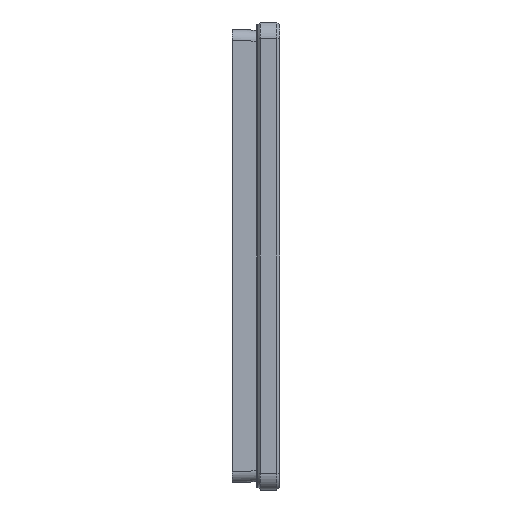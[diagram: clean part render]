
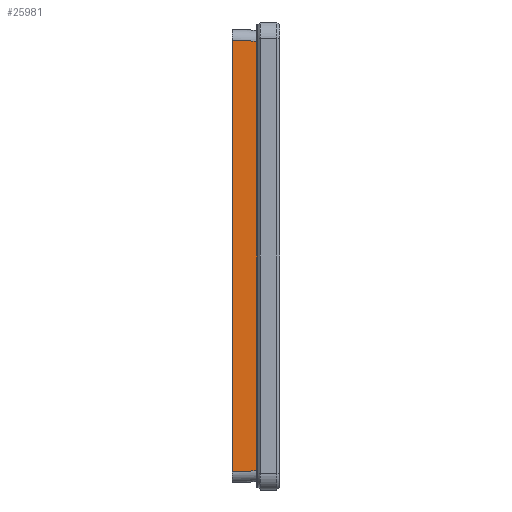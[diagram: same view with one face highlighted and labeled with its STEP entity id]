
A CAD part, left-side view. The second image highlights one B-rep face of the part: STEP entity #25981.
In plain terms, the highlighted planar face has unit normal (-0.999, -0.044, 0) as drawn and (-0.999, 0.044, 0) by its records, which use the part's own axes.
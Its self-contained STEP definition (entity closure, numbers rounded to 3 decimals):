
#2498=FACE_OUTER_BOUND('',#4013,.T.);
#4013=EDGE_LOOP('',(#18547,#18548,#18549,#18550));
#5885=LINE('',#38897,#8492);
#5886=LINE('',#38900,#8493);
#5887=LINE('',#38902,#8494);
#5888=LINE('',#38903,#8495);
#8492=VECTOR('',#30244,4.509);
#8493=VECTOR('',#30247,78.397);
#8494=VECTOR('',#30248,4.509);
#8495=VECTOR('',#30249,78.004);
#11172=VERTEX_POINT('',#38890);
#11175=VERTEX_POINT('',#38895);
#11176=VERTEX_POINT('',#38899);
#11177=VERTEX_POINT('',#38901);
#13953=EDGE_CURVE('',#11175,#11172,#5885,.T.);
#13954=EDGE_CURVE('',#11175,#11176,#5886,.T.);
#13955=EDGE_CURVE('',#11177,#11176,#5887,.T.);
#13956=EDGE_CURVE('',#11172,#11177,#5888,.T.);
#18547=ORIENTED_EDGE('',*,*,#13953,.F.);
#18548=ORIENTED_EDGE('',*,*,#13954,.T.);
#18549=ORIENTED_EDGE('',*,*,#13955,.F.);
#18550=ORIENTED_EDGE('',*,*,#13956,.F.);
#25118=PLANE('',#27503);
#25981=ADVANCED_FACE('',(#2498),#25118,.T.);
#27503=AXIS2_PLACEMENT_3D('',#38898,#30245,#30246);
#30244=DIRECTION('',(0.044,0.998,0.044));
#30245=DIRECTION('center_axis',(-0.999,0.044,0.));
#30246=DIRECTION('ref_axis',(0.,0.,
1.));
#30247=DIRECTION('',(0.,0.,1.));
#30248=DIRECTION('',(-0.044,-0.998,0.044));
#30249=DIRECTION('',(0.,0.,1.));
#38890=CARTESIAN_POINT('',(163.151,4.5,-74.402));
#38895=CARTESIAN_POINT('',(162.955,0.,-74.598));
#38897=CARTESIAN_POINT('',(162.955,0.,-74.598));
#38898=CARTESIAN_POINT('Origin',(162.955,0.004,-76.4));
#38899=CARTESIAN_POINT('',(162.955,0.,3.798));
#38900=CARTESIAN_POINT('',(162.955,0.,-74.598));
#38901=CARTESIAN_POINT('',(163.151,4.5,3.602));
#38902=CARTESIAN_POINT('',(163.151,4.5,3.602));
#38903=CARTESIAN_POINT('',(163.151,4.5,-74.402));
